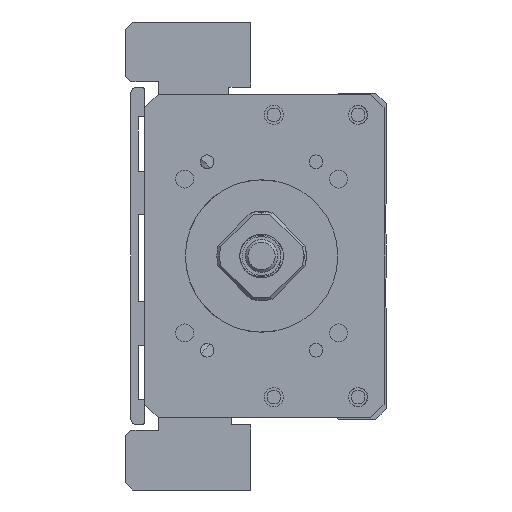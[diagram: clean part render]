
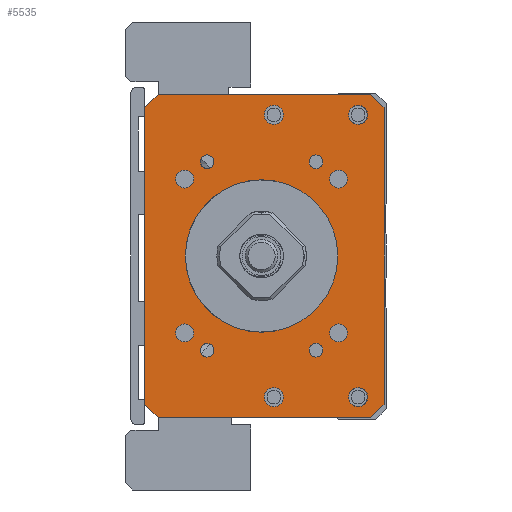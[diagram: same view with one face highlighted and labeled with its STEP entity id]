
A CAD part, left-side view. The second image highlights one B-rep face of the part: STEP entity #5535.
In plain terms, the highlighted planar face has unit normal (-1, 0, 0).
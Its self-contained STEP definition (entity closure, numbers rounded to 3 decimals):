
#4524=FACE_BOUND('',#7249,.T.);
#4525=FACE_BOUND('',#7250,.T.);
#4526=FACE_BOUND('',#7251,.T.);
#4527=FACE_BOUND('',#7252,.T.);
#4528=FACE_BOUND('',#7253,.T.);
#4529=FACE_BOUND('',#7254,.T.);
#4530=FACE_BOUND('',#7255,.T.);
#4531=FACE_BOUND('',#7256,.T.);
#4532=FACE_BOUND('',#7257,.T.);
#4533=FACE_BOUND('',#7258,.T.);
#4534=FACE_BOUND('',#7259,.T.);
#4535=FACE_BOUND('',#7260,.T.);
#4536=FACE_BOUND('',#7261,.T.);
#4537=FACE_BOUND('',#7262,.T.);
#4921=CIRCLE('',#15781,14.);
#4930=CIRCLE('',#15792,1.65);
#4931=CIRCLE('',#15793,1.65);
#4932=CIRCLE('',#15794,1.65);
#4933=CIRCLE('',#15795,1.65);
#4934=CIRCLE('',#15796,1.25);
#4935=CIRCLE('',#15797,1.75);
#4936=CIRCLE('',#15798,1.25);
#4937=CIRCLE('',#15799,1.75);
#4938=CIRCLE('',#15800,1.25);
#4939=CIRCLE('',#15801,1.75);
#4940=CIRCLE('',#15802,1.75);
#4941=CIRCLE('',#15803,1.25);
#5535=ADVANCED_FACE('',(#4524,#4525,#4526,#4527,#4528,#4529,#4530,#4531,
#4532,#4533,#4534,#4535,#4536,#4537),#6042,.F.);
#6042=PLANE('',#15804);
#7249=EDGE_LOOP('',(#9831));
#7250=EDGE_LOOP('',(#9832));
#7251=EDGE_LOOP('',(#9833));
#7252=EDGE_LOOP('',(#9834));
#7253=EDGE_LOOP('',(#9835));
#7254=EDGE_LOOP('',(#9836));
#7255=EDGE_LOOP('',(#9837));
#7256=EDGE_LOOP('',(#9838));
#7257=EDGE_LOOP('',(#9839));
#7258=EDGE_LOOP('',(#9840,#9841,#9842,#9843,#9844,#9845,#9846,#9847));
#7259=EDGE_LOOP('',(#9848));
#7260=EDGE_LOOP('',(#9849));
#7261=EDGE_LOOP('',(#9850));
#7262=EDGE_LOOP('',(#9851));
#9831=ORIENTED_EDGE('',*,*,#12764,.F.);
#9832=ORIENTED_EDGE('',*,*,#12765,.F.);
#9833=ORIENTED_EDGE('',*,*,#12766,.F.);
#9834=ORIENTED_EDGE('',*,*,#12767,.F.);
#9835=ORIENTED_EDGE('',*,*,#12768,.F.);
#9836=ORIENTED_EDGE('',*,*,#12769,.T.);
#9837=ORIENTED_EDGE('',*,*,#12770,.F.);
#9838=ORIENTED_EDGE('',*,*,#12771,.F.);
#9839=ORIENTED_EDGE('',*,*,#12772,.F.);
#9840=ORIENTED_EDGE('',*,*,#12761,.T.);
#9841=ORIENTED_EDGE('',*,*,#12773,.T.);
#9842=ORIENTED_EDGE('',*,*,#12774,.F.);
#9843=ORIENTED_EDGE('',*,*,#12775,.T.);
#9844=ORIENTED_EDGE('',*,*,#12776,.F.);
#9845=ORIENTED_EDGE('',*,*,#12777,.T.);
#9846=ORIENTED_EDGE('',*,*,#12778,.T.);
#9847=ORIENTED_EDGE('',*,*,#12779,.T.);
#9848=ORIENTED_EDGE('',*,*,#12780,.F.);
#9849=ORIENTED_EDGE('',*,*,#12781,.F.);
#9850=ORIENTED_EDGE('',*,*,#12782,.F.);
#9851=ORIENTED_EDGE('',*,*,#12741,.F.);
#11352=VERTEX_POINT('',#22176);
#11372=VERTEX_POINT('',#22236);
#11373=VERTEX_POINT('',#22238);
#11375=VERTEX_POINT('',#22244);
#11376=VERTEX_POINT('',#22246);
#11377=VERTEX_POINT('',#22248);
#11378=VERTEX_POINT('',#22250);
#11379=VERTEX_POINT('',#22252);
#11380=VERTEX_POINT('',#22254);
#11381=VERTEX_POINT('',#22256);
#11382=VERTEX_POINT('',#22258);
#11383=VERTEX_POINT('',#22260);
#11384=VERTEX_POINT('',#22262);
#11385=VERTEX_POINT('',#22264);
#11386=VERTEX_POINT('',#22266);
#11387=VERTEX_POINT('',#22268);
#11388=VERTEX_POINT('',#22270);
#11389=VERTEX_POINT('',#22272);
#11390=VERTEX_POINT('',#22275);
#11391=VERTEX_POINT('',#22277);
#11392=VERTEX_POINT('',#22279);
#12741=EDGE_CURVE('',#11352,#11352,#4921,.T.);
#12761=EDGE_CURVE('',#11373,#11372,#13923,.T.);
#12764=EDGE_CURVE('',#11375,#11375,#4930,.T.);
#12765=EDGE_CURVE('',#11376,#11376,#4931,.T.);
#12766=EDGE_CURVE('',#11377,#11377,#4932,.T.);
#12767=EDGE_CURVE('',#11378,#11378,#4933,.T.);
#12768=EDGE_CURVE('',#11379,#11379,#4934,.T.);
#12769=EDGE_CURVE('',#11380,#11380,#4935,.T.);
#12770=EDGE_CURVE('',#11381,#11381,#4936,.T.);
#12771=EDGE_CURVE('',#11382,#11382,#4937,.T.);
#12772=EDGE_CURVE('',#11383,#11383,#4938,.T.);
#12773=EDGE_CURVE('',#11372,#11384,#13925,.T.);
#12774=EDGE_CURVE('',#11385,#11384,#13926,.T.);
#12775=EDGE_CURVE('',#11385,#11386,#13927,.T.);
#12776=EDGE_CURVE('',#11387,#11386,#13928,.T.);
#12777=EDGE_CURVE('',#11387,#11388,#13929,.T.);
#12778=EDGE_CURVE('',#11388,#11389,#13930,.T.);
#12779=EDGE_CURVE('',#11389,#11373,#13931,.T.);
#12780=EDGE_CURVE('',#11390,#11390,#4939,.T.);
#12781=EDGE_CURVE('',#11391,#11391,#4940,.T.);
#12782=EDGE_CURVE('',#11392,#11392,#4941,.T.);
#13923=LINE('',#22237,#14870);
#13925=LINE('',#22261,#14872);
#13926=LINE('',#22263,#14873);
#13927=LINE('',#22265,#14874);
#13928=LINE('',#22267,#14875);
#13929=LINE('',#22269,#14876);
#13930=LINE('',#22271,#14877);
#13931=LINE('',#22273,#14878);
#14870=VECTOR('',#18457,1.);
#14872=VECTOR('',#18481,1.);
#14873=VECTOR('',#18482,1.);
#14874=VECTOR('',#18483,1.);
#14875=VECTOR('',#18484,1.);
#14876=VECTOR('',#18485,1.);
#14877=VECTOR('',#18486,1.);
#14878=VECTOR('',#18487,1.);
#15781=AXIS2_PLACEMENT_3D('',#22175,#18431,#18432);
#15792=AXIS2_PLACEMENT_3D('',#22243,#18463,#18464);
#15793=AXIS2_PLACEMENT_3D('',#22245,#18465,#18466);
#15794=AXIS2_PLACEMENT_3D('',#22247,#18467,#18468);
#15795=AXIS2_PLACEMENT_3D('',#22249,#18469,#18470);
#15796=AXIS2_PLACEMENT_3D('',#22251,#18471,#18472);
#15797=AXIS2_PLACEMENT_3D('',#22253,#18473,#18474);
#15798=AXIS2_PLACEMENT_3D('',#22255,#18475,#18476);
#15799=AXIS2_PLACEMENT_3D('',#22257,#18477,#18478);
#15800=AXIS2_PLACEMENT_3D('',#22259,#18479,#18480);
#15801=AXIS2_PLACEMENT_3D('',#22274,#18488,#18489);
#15802=AXIS2_PLACEMENT_3D('',#22276,#18490,#18491);
#15803=AXIS2_PLACEMENT_3D('',#22278,#18492,#18493);
#15804=AXIS2_PLACEMENT_3D('',#22280,#18494,#18495);
#18431=DIRECTION('',(-1.,0.,0.));
#18432=DIRECTION('',(0.,1.,0.));
#18457=DIRECTION('',(0.,0.,-1.));
#18463=DIRECTION('',(-1.,0.,0.));
#18464=DIRECTION('',(0.,0.,1.));
#18465=DIRECTION('',(-1.,0.,0.));
#18466=DIRECTION('',(0.,0.,1.));
#18467=DIRECTION('',(-1.,0.,0.));
#18468=DIRECTION('',(0.,0.,1.));
#18469=DIRECTION('',(-1.,0.,0.));
#18470=DIRECTION('',(0.,0.,1.));
#18471=DIRECTION('',(-1.,0.,0.));
#18472=DIRECTION('',(0.,1.,0.));
#18473=DIRECTION('',(1.,0.,0.));
#18474=DIRECTION('',(0.,0.,1.));
#18475=DIRECTION('',(-1.,0.,0.));
#18476=DIRECTION('',(0.,1.,0.));
#18477=DIRECTION('',(-1.,0.,0.));
#18478=DIRECTION('',(0.,0.,1.));
#18479=DIRECTION('',(-1.,0.,0.));
#18480=DIRECTION('',(0.,1.,0.));
#18481=DIRECTION('',(0.,-0.707,-0.707));
#18482=DIRECTION('',(0.,1.,0.));
#18483=DIRECTION('',(0.,-0.707,0.707));
#18484=DIRECTION('',(0.,0.,-1.));
#18485=DIRECTION('',(0.,0.707,0.707));
#18486=DIRECTION('',(0.,1.,0.));
#18487=DIRECTION('',(0.,0.707,-0.707));
#18488=DIRECTION('',(-1.,0.,0.));
#18489=DIRECTION('',(0.,0.,1.));
#18490=DIRECTION('',(-1.,0.,0.));
#18491=DIRECTION('',(0.,0.,1.));
#18492=DIRECTION('',(-1.,0.,0.));
#18493=DIRECTION('',(0.,1.,0.));
#18494=DIRECTION('',(1.,0.,0.));
#18495=DIRECTION('',(0.,1.,0.));
#22175=CARTESIAN_POINT('',(-211.,0.,-400.));
#22176=CARTESIAN_POINT('',(-211.,14.,-400.));
#22236=CARTESIAN_POINT('',(-211.,21.499,-427.25));
#22237=CARTESIAN_POINT('',(-211.,21.499,-370.25));
#22238=CARTESIAN_POINT('',(-211.,21.499,-372.75));
#22243=CARTESIAN_POINT('',(-211.,14.142,-385.858));
#22244=CARTESIAN_POINT('',(-211.,14.142,-384.208));
#22245=CARTESIAN_POINT('',(-211.,-14.142,-385.858));
#22246=CARTESIAN_POINT('',(-211.,-14.142,-384.208));
#22247=CARTESIAN_POINT('',(-211.,14.142,-414.142));
#22248=CARTESIAN_POINT('',(-211.,14.142,-412.492));
#22249=CARTESIAN_POINT('',(-211.,-14.142,-414.142));
#22250=CARTESIAN_POINT('',(-211.,-14.142,-412.492));
#22251=CARTESIAN_POINT('',(-211.,-10.,-417.321));
#22252=CARTESIAN_POINT('',(-211.,-8.75,-417.321));
#22253=CARTESIAN_POINT('',(-211.,-2.25,-425.936));
#22254=CARTESIAN_POINT('',(-211.,-2.25,-424.186));
#22255=CARTESIAN_POINT('',(-211.,10.,-382.679));
#22256=CARTESIAN_POINT('',(-211.,11.25,-382.679));
#22257=CARTESIAN_POINT('',(-211.,-2.25,-374.064));
#22258=CARTESIAN_POINT('',(-211.,-2.25,-372.314));
#22259=CARTESIAN_POINT('',(-211.,10.,-417.321));
#22260=CARTESIAN_POINT('',(-211.,11.25,-417.321));
#22261=CARTESIAN_POINT('',(-211.,18.999,-429.75));
#22262=CARTESIAN_POINT('',(-211.,18.999,-429.75));
#22263=CARTESIAN_POINT('',(-211.,-22.501,-429.75));
#22264=CARTESIAN_POINT('',(-211.,-20.001,-429.75));
#22265=CARTESIAN_POINT('',(-211.,-22.501,-427.25));
#22266=CARTESIAN_POINT('',(-211.,-22.501,-427.25));
#22267=CARTESIAN_POINT('',(-211.,-22.501,-370.25));
#22268=CARTESIAN_POINT('',(-211.,-22.501,-372.75));
#22269=CARTESIAN_POINT('',(-211.,-22.501,-372.75));
#22270=CARTESIAN_POINT('',(-211.,-20.001,-370.25));
#22271=CARTESIAN_POINT('',(-211.,-22.501,-370.25));
#22272=CARTESIAN_POINT('',(-211.,18.999,-370.25));
#22273=CARTESIAN_POINT('',(-211.,18.999,-370.25));
#22274=CARTESIAN_POINT('',(-211.,-17.75,-374.064));
#22275=CARTESIAN_POINT('',(-211.,-17.75,-372.314));
#22276=CARTESIAN_POINT('',(-211.,-17.75,-425.936));
#22277=CARTESIAN_POINT('',(-211.,-17.75,-424.186));
#22278=CARTESIAN_POINT('',(-211.,-10.,-382.679));
#22279=CARTESIAN_POINT('',(-211.,-8.75,-382.679));
#22280=CARTESIAN_POINT('',(-211.,-22.501,-370.25));
